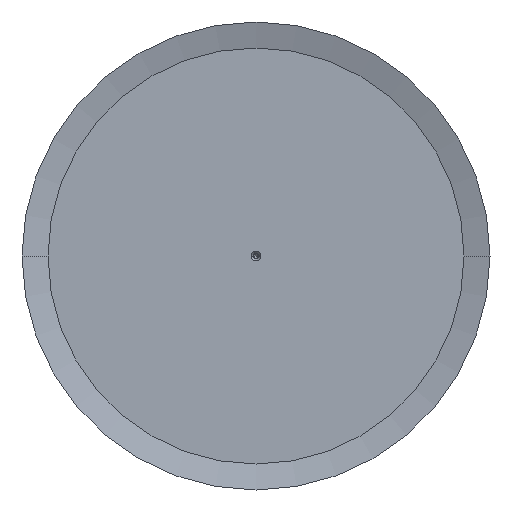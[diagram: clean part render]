
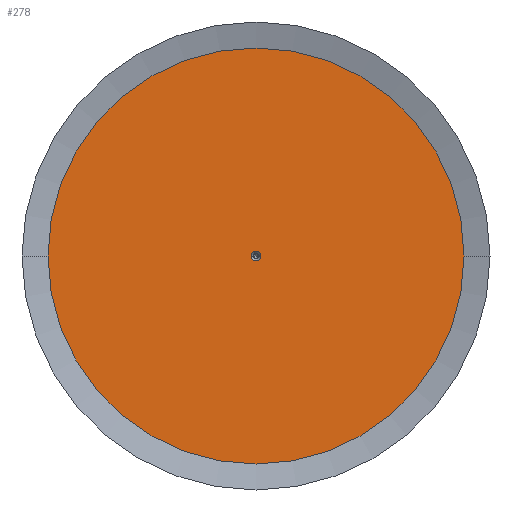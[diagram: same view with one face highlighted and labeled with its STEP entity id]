
A CAD part, left-side view. The second image highlights one B-rep face of the part: STEP entity #278.
In plain terms, the highlighted planar face has unit normal (-1, 0, 0).
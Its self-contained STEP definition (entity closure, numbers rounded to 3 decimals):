
#278=ADVANCED_FACE('',(#748,#749),#750,.T.);
#748=FACE_BOUND('',#1219,.T.);
#749=FACE_OUTER_BOUND('',#1220,.T.);
#750=PLANE('',#1221);
#1219=EDGE_LOOP('',(#3242,#3243));
#1220=EDGE_LOOP('',(#3244,#3245));
#1221=AXIS2_PLACEMENT_3D('',#3246,#3247,#3248);
#3242=ORIENTED_EDGE('',*,*,#3289,.T.);
#3243=ORIENTED_EDGE('',*,*,#3302,.T.);
#3244=ORIENTED_EDGE('',*,*,#3812,.F.);
#3245=ORIENTED_EDGE('',*,*,#3259,.F.);
#3246=CARTESIAN_POINT('',(0.0,0.0,0.0));
#3247=DIRECTION('',(-1.0,0.0,0.0));
#3248=DIRECTION('',(0.0,0.0,1.0));
#3259=EDGE_CURVE('',#3929,#3926,#3931,.T.);
#3289=EDGE_CURVE('',#3980,#3982,#3984,.T.);
#3302=EDGE_CURVE('',#3982,#3980,#4004,.T.);
#3812=EDGE_CURVE('',#3926,#3929,#4914,.T.);
#3926=VERTEX_POINT('',#5032);
#3929=VERTEX_POINT('',#5036);
#3931=CIRCLE('',#5039,88.0);
#3980=VERTEX_POINT('',#5102);
#3982=VERTEX_POINT('',#5105);
#3984=CIRCLE('',#5108,2.0);
#4004=CIRCLE('',#5134,2.0);
#4914=CIRCLE('',#6145,88.0);
#5032=CARTESIAN_POINT('',(0.0,88.0,0.0));
#5036=CARTESIAN_POINT('',(0.0,-88.0,0.));
#5039=AXIS2_PLACEMENT_3D('',#6363,#6364,#6365);
#5102=CARTESIAN_POINT('',(0.0,2.0,0.0));
#5105=CARTESIAN_POINT('',(0.0,-2.0,0.));
#5108=AXIS2_PLACEMENT_3D('',#6421,#6422,#6423);
#5134=AXIS2_PLACEMENT_3D('',#6448,#6449,#6450);
#6145=AXIS2_PLACEMENT_3D('',#7776,#7777,#7778);
#6363=CARTESIAN_POINT('',(0.0,0.0,0.0));
#6364=DIRECTION('',(1.0,0.0,0.0));
#6365=DIRECTION('',(0.0,1.0,0.0));
#6421=CARTESIAN_POINT('',(0.0,0.0,0.0));
#6422=DIRECTION('',(1.0,0.0,0.0));
#6423=DIRECTION('',(0.0,1.0,0.0));
#6448=CARTESIAN_POINT('',(0.0,0.0,0.0));
#6449=DIRECTION('',(1.0,0.0,0.0));
#6450=DIRECTION('',(0.0,1.0,0.0));
#7776=CARTESIAN_POINT('',(0.0,0.0,0.0));
#7777=DIRECTION('',(1.0,0.0,0.0));
#7778=DIRECTION('',(0.0,1.0,0.0));
